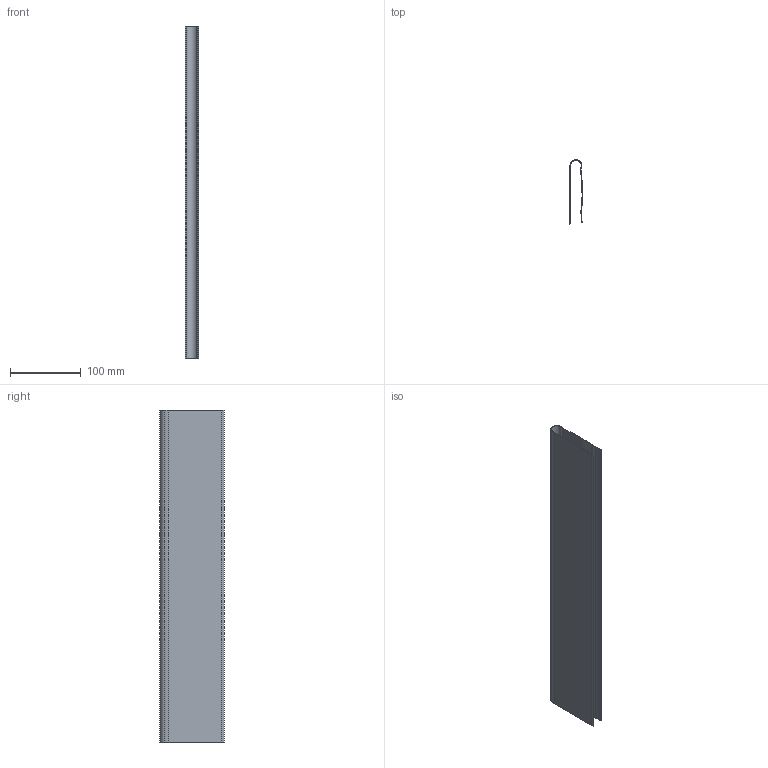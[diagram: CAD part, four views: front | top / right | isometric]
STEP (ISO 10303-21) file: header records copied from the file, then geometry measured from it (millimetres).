
FILE_DESCRIPTION (( 'STEP AP214' ), '1' );
FILE_NAME ('_Duowing NL500.step', '2010-07-14T13:30:48', ( 'grass' ), ( '' ), 'SwSTEP 2.0', 'SolidWorks 2010', '' );
FILE_SCHEMA (( 'AUTOMOTIVE_DESIGN' ));
Length unit declared in the file: millimetre
Products named in the file (1): _Duowing NL500
Bounding box: 18.64 x 90.48 x 468 mm (x, y, z)
Volume: 66261.4 mm3; surface area: 177682.2 mm2
Topology: 1 solids, 1 shells, 54 faces, 108 edges, 56 vertices
Faces by surface type: plane 36, cylinder 18
Entity records: 1378 total; most frequent: DIRECTION 254, CARTESIAN_POINT 219, ORIENTED_EDGE 216, EDGE_CURVE 108, AXIS2_PLACEMENT_3D 91, VECTOR 72, LINE 72, VERTEX_POINT 56
